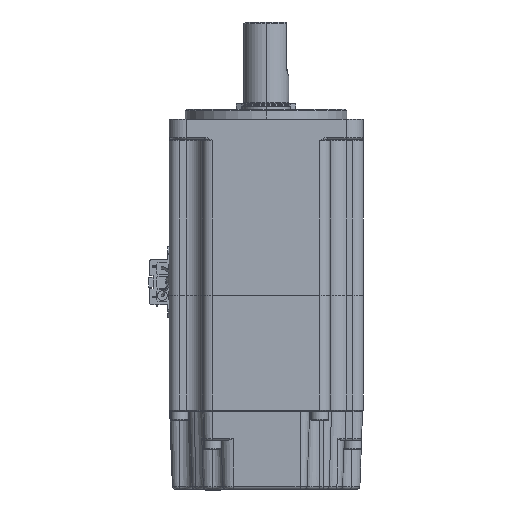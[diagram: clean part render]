
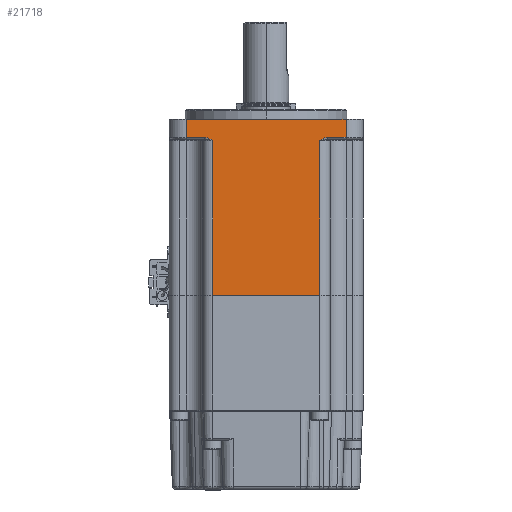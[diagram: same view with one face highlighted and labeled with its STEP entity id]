
A CAD part, front view. The second image highlights one B-rep face of the part: STEP entity #21718.
In plain terms, the highlighted planar face has unit normal (0, -1, 0).
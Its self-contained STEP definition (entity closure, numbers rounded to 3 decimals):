
#273 = DIRECTION ( 'NONE',  ( -1., 0., 0. ) ) ;
#439 = CARTESIAN_POINT ( 'NONE',  ( 24.7, -30., -9. ) ) ;
#1010 = CARTESIAN_POINT ( 'NONE',  ( 24.7, -30., 82.153 ) ) ;
#1789 = CARTESIAN_POINT ( 'NONE',  ( 18.846, -30., -9. ) ) ;
#2364 = LINE ( 'NONE', #5403, #24448 ) ;
#2601 = DIRECTION ( 'NONE',  ( 0., 0., -1. ) ) ;
#3122 = DIRECTION ( 'NONE',  ( 0., 1., 0. ) ) ;
#4489 = B_SPLINE_CURVE_WITH_KNOTS ( 'NONE', 3,
 ( #18922, #32384, #8964, #39076, #5716, #36048, #39287, #25875 ),
 .UNSPECIFIED., .F., .F.,
 ( 4, 2, 2, 4 ),
 ( 0., 0.001, 0.001, 0.003 ),
 .UNSPECIFIED. ) ;
#5403 = CARTESIAN_POINT ( 'NONE',  ( 16.549, -30., 82.153 ) ) ;
#5716 = CARTESIAN_POINT ( 'NONE',  ( -17.957, -30., -9.239 ) ) ;
#6110 = VERTEX_POINT ( 'NONE', #14310 ) ;
#6621 = VERTEX_POINT ( 'NONE', #12916 ) ;
#7294 = VERTEX_POINT ( 'NONE', #8509 ) ;
#7685 = EDGE_CURVE ( 'NONE', #33800, #6110, #21953, .T. ) ;
#7836 = ORIENTED_EDGE ( 'NONE', *, *, #15943, .F. ) ;
#8509 = CARTESIAN_POINT ( 'NONE',  ( -16.549, -30., -10. ) ) ;
#8964 = CARTESIAN_POINT ( 'NONE',  ( -18.619, -30., -9.037 ) ) ;
#9594 = VERTEX_POINT ( 'NONE', #30701 ) ;
#10274 = VECTOR ( 'NONE', #14146, 1000. ) ;
#10688 = AXIS2_PLACEMENT_3D ( 'NONE', #42742, #3122, #273 ) ;
#11155 = ORIENTED_EDGE ( 'NONE', *, *, #19806, .T. ) ;
#11432 = ORIENTED_EDGE ( 'NONE', *, *, #7685, .F. ) ;
#11551 = CARTESIAN_POINT ( 'NONE',  ( 16.549, -30., -10. ) ) ;
#12065 = LINE ( 'NONE', #31162, #21362 ) ;
#12123 = DIRECTION ( 'NONE',  ( 0., 0., 1. ) ) ;
#12916 = CARTESIAN_POINT ( 'NONE',  ( -24.7, -30., -9. ) ) ;
#13755 = B_SPLINE_CURVE_WITH_KNOTS ( 'NONE', 3,
 ( #11551, #32358, #15633, #41858, #25198, #28859, #1789, #15205 ),
 .UNSPECIFIED., .F., .F.,
 ( 4, 2, 2, 4 ),
 ( 0., 0.001, 0.002, 0.003 ),
 .UNSPECIFIED. ) ;
#13963 = LINE ( 'NONE', #439, #15859 ) ;
#14146 = DIRECTION ( 'NONE',  ( 1., 0., 0. ) ) ;
#14310 = CARTESIAN_POINT ( 'NONE',  ( -16.549, -30., -57.8 ) ) ;
#15205 = CARTESIAN_POINT ( 'NONE',  ( 19.079, -30., -9. ) ) ;
#15633 = CARTESIAN_POINT ( 'NONE',  ( 17.332, -30., -9.522 ) ) ;
#15856 = ORIENTED_EDGE ( 'NONE', *, *, #16603, .T. ) ;
#15859 = VECTOR ( 'NONE', #20390, 1000. ) ;
#15943 = EDGE_CURVE ( 'NONE', #9594, #25476, #20731, .T. ) ;
#16603 = EDGE_CURVE ( 'NONE', #31358, #7294, #4489, .T. ) ;
#16953 = EDGE_CURVE ( 'NONE', #6621, #31358, #24342, .T. ) ;
#17926 = ORIENTED_EDGE ( 'NONE', *, *, #29665, .T. ) ;
#18192 = VERTEX_POINT ( 'NONE', #26757 ) ;
#18267 = VECTOR ( 'NONE', #2601, 1000. ) ;
#18922 = CARTESIAN_POINT ( 'NONE',  ( -19.079, -30., -9. ) ) ;
#19806 = EDGE_CURVE ( 'NONE', #27078, #6621, #32109, .T. ) ;
#20390 = DIRECTION ( 'NONE',  ( 1., 0., 0. ) ) ;
#20731 = LINE ( 'NONE', #1010, #28222 ) ;
#21142 = CARTESIAN_POINT ( 'NONE',  ( -19.079, -30., -9. ) ) ;
#21362 = VECTOR ( 'NONE', #40906, 1000. ) ;
#21718 = ADVANCED_FACE ( 'NONE', ( #33036 ), #29563, .F. ) ;
#21801 = CARTESIAN_POINT ( 'NONE',  ( 16.549, -30., -10. ) ) ;
#21953 = LINE ( 'NONE', #38867, #41746 ) ;
#22076 = ORIENTED_EDGE ( 'NONE', *, *, #41283, .T. ) ;
#22816 = VECTOR ( 'NONE', #29809, 1000. ) ;
#23268 = EDGE_CURVE ( 'NONE', #41310, #18192, #13755, .T. ) ;
#23871 = DIRECTION ( 'NONE',  ( -1., 0., 0. ) ) ;
#24342 = LINE ( 'NONE', #37545, #10274 ) ;
#24448 = VECTOR ( 'NONE', #12123, 1000. ) ;
#25198 = CARTESIAN_POINT ( 'NONE',  ( 18.174, -30., -9.156 ) ) ;
#25476 = VERTEX_POINT ( 'NONE', #36346 ) ;
#25875 = CARTESIAN_POINT ( 'NONE',  ( -16.549, -30., -10. ) ) ;
#26227 = EDGE_LOOP ( 'NONE', ( #11432, #17926, #32711, #30929, #7836, #36558, #11155, #42428, #15856, #22076 ) ) ;
#26757 = CARTESIAN_POINT ( 'NONE',  ( 19.079, -30., -9. ) ) ;
#26769 = LINE ( 'NONE', #30249, #22816 ) ;
#26994 = EDGE_CURVE ( 'NONE', #9594, #27078, #26769, .T. ) ;
#27078 = VERTEX_POINT ( 'NONE', #31091 ) ;
#28222 = VECTOR ( 'NONE', #33557, 1000. ) ;
#28859 = CARTESIAN_POINT ( 'NONE',  ( 18.619, -30., -9.037 ) ) ;
#29563 = PLANE ( 'NONE',  #10688 ) ;
#29665 = EDGE_CURVE ( 'NONE', #33800, #41310, #2364, .T. ) ;
#29809 = DIRECTION ( 'NONE',  ( -1., 0., 0. ) ) ;
#30249 = CARTESIAN_POINT ( 'NONE',  ( 24.7, -30., -3.3 ) ) ;
#30701 = CARTESIAN_POINT ( 'NONE',  ( 24.7, -30., -3.3 ) ) ;
#30929 = ORIENTED_EDGE ( 'NONE', *, *, #32813, .T. ) ;
#31091 = CARTESIAN_POINT ( 'NONE',  ( -24.7, -30., -3.3 ) ) ;
#31162 = CARTESIAN_POINT ( 'NONE',  ( -16.549, -30., 82.153 ) ) ;
#31358 = VERTEX_POINT ( 'NONE', #21142 ) ;
#32109 = LINE ( 'NONE', #32327, #18267 ) ;
#32327 = CARTESIAN_POINT ( 'NONE',  ( -24.7, -30., 82.153 ) ) ;
#32358 = CARTESIAN_POINT ( 'NONE',  ( 16.939, -30., -9.762 ) ) ;
#32384 = CARTESIAN_POINT ( 'NONE',  ( -18.846, -30., -9. ) ) ;
#32711 = ORIENTED_EDGE ( 'NONE', *, *, #23268, .T. ) ;
#32813 = EDGE_CURVE ( 'NONE', #18192, #25476, #13963, .T. ) ;
#33036 = FACE_OUTER_BOUND ( 'NONE', #26227, .T. ) ;
#33557 = DIRECTION ( 'NONE',  ( 0., 0., -1. ) ) ;
#33800 = VERTEX_POINT ( 'NONE', #36659 ) ;
#36048 = CARTESIAN_POINT ( 'NONE',  ( -17.332, -30., -9.522 ) ) ;
#36346 = CARTESIAN_POINT ( 'NONE',  ( 24.7, -30., -9. ) ) ;
#36558 = ORIENTED_EDGE ( 'NONE', *, *, #26994, .T. ) ;
#36659 = CARTESIAN_POINT ( 'NONE',  ( 16.549, -30., -57.8 ) ) ;
#37545 = CARTESIAN_POINT ( 'NONE',  ( -16.549, -30., -9. ) ) ;
#38867 = CARTESIAN_POINT ( 'NONE',  ( 24.7, -30., -57.8 ) ) ;
#39076 = CARTESIAN_POINT ( 'NONE',  ( -18.174, -30., -9.156 ) ) ;
#39287 = CARTESIAN_POINT ( 'NONE',  ( -16.941, -30., -9.761 ) ) ;
#40906 = DIRECTION ( 'NONE',  ( 0., 0., -1. ) ) ;
#41283 = EDGE_CURVE ( 'NONE', #7294, #6110, #12065, .T. ) ;
#41310 = VERTEX_POINT ( 'NONE', #21801 ) ;
#41746 = VECTOR ( 'NONE', #23871, 1000. ) ;
#41858 = CARTESIAN_POINT ( 'NONE',  ( 17.957, -30., -9.239 ) ) ;
#42428 = ORIENTED_EDGE ( 'NONE', *, *, #16953, .T. ) ;
#42742 = CARTESIAN_POINT ( 'NONE',  ( 24.7, -30., 82.153 ) ) ;
